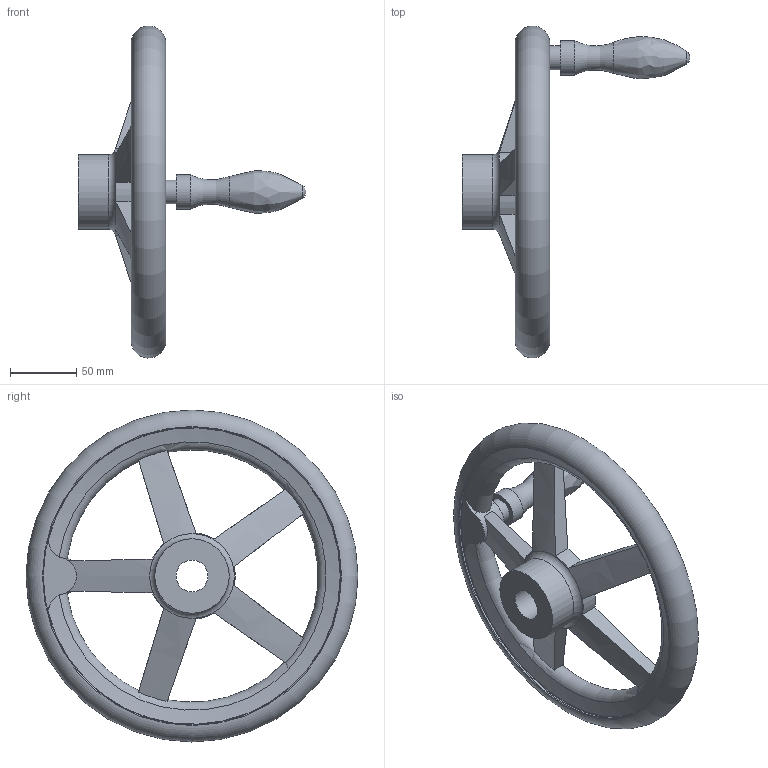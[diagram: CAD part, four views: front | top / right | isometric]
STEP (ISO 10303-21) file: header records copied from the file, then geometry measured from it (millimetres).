
FILE_DESCRIPTION( ( 'STEP AP203' ), '1' );
FILE_NAME( 'C:/Temp/Ganter_Step_05_03_2020/data/1_3/gn_950_1/gn_950_1_b/gn_950_1_b_d/Handwheel GN 950.1-GG-250-B24-D.stp', '2020-03-05T10:32:34', ( 'License CC BY-ND 4.0' ), ( 'CADENAS' ), ' ', 'PARTsolutions', ' ' );
FILE_SCHEMA( ( 'CONFIG_CONTROL_DESIGN' ) );
Length unit declared in the file: millimetre
Products named in the file (1): _Handwheel GN 950.1-GG-250-B24-D
Bounding box: 171.5 x 249.93 x 249.93 mm (x, y, z)
Volume: 614033.4 mm3; surface area: 108105.8 mm2
Topology: 1 solids, 1 shells, 51 faces, 147 edges, 94 vertices
Faces by surface type: cylinder 17, plane 15, torus 13, cone 4, bspline 1, sphere 1
Full cylindrical faces by diameter (mm): 18 x1, 24 x1, 26 x1, 56 x2, 224 x2
Entity records: 2073 total; most frequent: CARTESIAN_POINT 839, ORIENTED_EDGE 244, DIRECTION 226, EDGE_CURVE 122, AXIS2_PLACEMENT_3D 105, VERTEX_POINT 90, EDGE_LOOP 78, FACE_OUTER_BOUND 67
